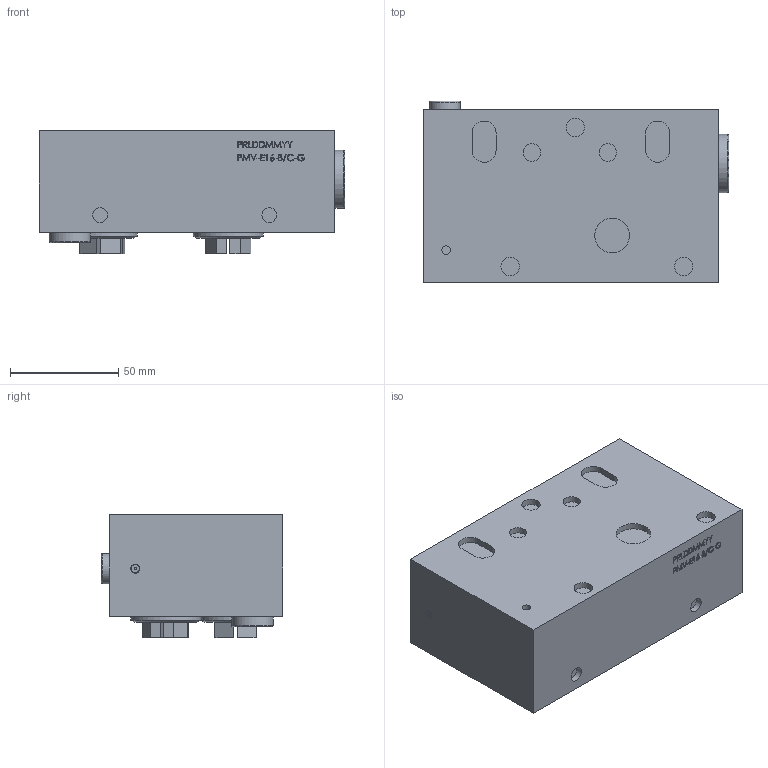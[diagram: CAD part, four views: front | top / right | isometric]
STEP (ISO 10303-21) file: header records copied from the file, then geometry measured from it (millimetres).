
FILE_DESCRIPTION (( 'STEP AP214' ), '1' );
FILE_NAME ('0302220.STEP', '2022-06-22T13:41:57', ( '' ), ( '' ), 'SwSTEP 2.0', 'SolidWorks 2020', '' );
FILE_SCHEMA (( 'AUTOMOTIVE_DESIGN' ));
Length unit declared in the file: millimetre
Products named in the file (7): 0072022_238.1405; 0072022_238.5405; 0288317_002; 0072022_238.2406; 0280258_001; 0283782_001; 0302220
Assembly tree (7 placements, depth 2):
  0302220
    0288317_002
    0280258_001  x2
    0072022_238.1405
    0072022_238.2406
    0283782_001
    0072022_238.5405
Bounding box: 140.7 x 83.7 x 56.7 mm (x, y, z)
Volume: 523974.6 mm3; surface area: 60482.3 mm2
Topology: 11 solids, 11 shells, 618 faces, 1462 edges, 960 vertices
Faces by surface type: plane 405, cylinder 87, bspline 85, cone 38, torus 3
Full cylindrical faces by diameter (mm): 0.6 x1, 1.1 x1, 3.5 x1, 3.767 x1, 4 x2, 5 x1, 6.8 x3, 8 x2, 8.3 x1, 8.4 x1, 8.5 x6, 8.566 x1, 9.7 x1, 11.3 x1, 11.445 x1, 11.6 x1, 11.9 x1, 11.91 x1, 13.2 x1, 14 x1, 16 x1, 16.5 x1, 16.51 x1, 18 x1, 18.4 x1, 18.5 x1, 18.631 x1, 19 x1, 21 x1, 23.9 x1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
Entity records: 20733 total; most frequent: CARTESIAN_POINT 8219, ORIENTED_EDGE 2448, DIRECTION 2210, EDGE_CURVE 1224, VECTOR 864, LINE 864, VERTEX_POINT 854, EDGE_LOOP 734
